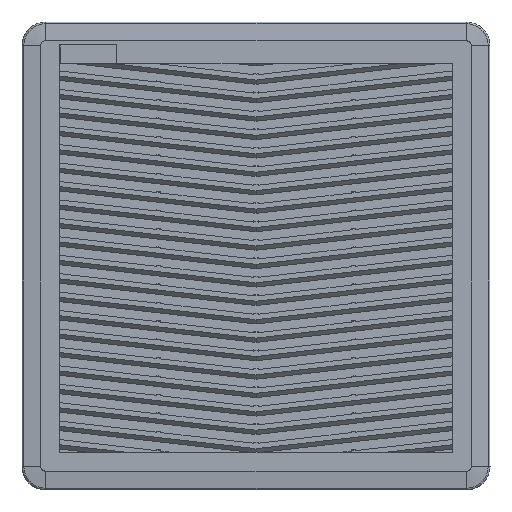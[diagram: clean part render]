
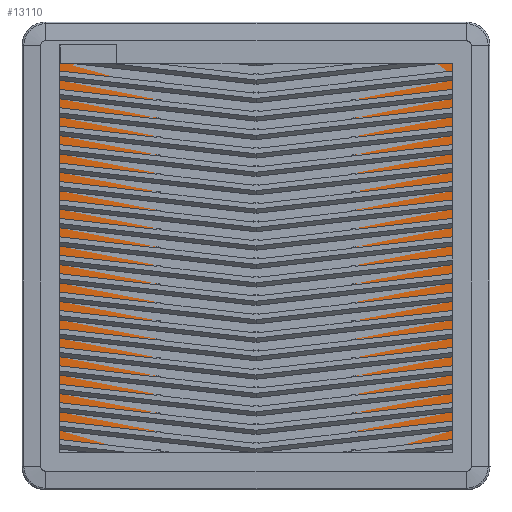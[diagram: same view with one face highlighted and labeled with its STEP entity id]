
A CAD part, top view. The second image highlights one B-rep face of the part: STEP entity #13110.
In plain terms, the highlighted planar face has unit normal (0, 0, 1).
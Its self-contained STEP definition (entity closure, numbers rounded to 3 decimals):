
#104 = CARTESIAN_POINT ( 'NONE',  ( 112.04, -112.04, 6.009 ) ) ;
#190 = VERTEX_POINT ( 'NONE', #4549 ) ;
#1856 = VECTOR ( 'NONE', #7229, 1000. ) ;
#2669 = FACE_OUTER_BOUND ( 'NONE', #18517, .T. ) ;
#3236 = DIRECTION ( 'NONE',  ( 0., 0., -1. ) ) ;
#4132 = CARTESIAN_POINT ( 'NONE',  ( -122.46, -112.04, 6.009 ) ) ;
#4284 = DIRECTION ( 'NONE',  ( 1., 0., 0. ) ) ;
#4323 = AXIS2_PLACEMENT_3D ( 'NONE', #104, #13462, #33496 ) ;
#4549 = CARTESIAN_POINT ( 'NONE',  ( 112.04, -122.54, 6.009 ) ) ;
#5356 = CARTESIAN_POINT ( 'NONE',  ( -111.96, 124.96, 6.009 ) ) ;
#5727 = ORIENTED_EDGE ( 'NONE', *, *, #16156, .F. ) ;
#7212 = VECTOR ( 'NONE', #38925, 1000. ) ;
#7229 = DIRECTION ( 'NONE',  ( 0., 1., 0. ) ) ;
#7437 = CARTESIAN_POINT ( 'NONE',  ( 112.04, 114.46, 6.009 ) ) ;
#7868 = ORIENTED_EDGE ( 'NONE', *, *, #19937, .F. ) ;
#8228 = LINE ( 'NONE', #28654, #7212 ) ;
#8946 = CARTESIAN_POINT ( 'NONE',  ( 112.04, -122.54, 6.009 ) ) ;
#10541 = LINE ( 'NONE', #24094, #1856 ) ;
#11771 = EDGE_CURVE ( 'NONE', #32879, #18724, #10541, .T. ) ;
#11933 = VERTEX_POINT ( 'NONE', #34301 ) ;
#12253 = PLANE ( 'NONE',  #25349 ) ;
#13110 = ADVANCED_FACE ( 'NONE', ( #2669 ), #12253, .T. ) ;
#13462 = DIRECTION ( 'NONE',  ( 0., 0., -1. ) ) ;
#14442 = CARTESIAN_POINT ( 'NONE',  ( -111.96, 114.46, 6.009 ) ) ;
#15229 = LINE ( 'NONE', #18780, #34152 ) ;
#15822 = DIRECTION ( 'NONE',  ( 0., 0., 1. ) ) ;
#16156 = EDGE_CURVE ( 'NONE', #25228, #24936, #15229, .T. ) ;
#16602 = CARTESIAN_POINT ( 'NONE',  ( -111.96, -112.04, 6.009 ) ) ;
#16879 = EDGE_CURVE ( 'NONE', #190, #11933, #42330, .T. ) ;
#17187 = EDGE_CURVE ( 'NONE', #27420, #38492, #8228, .T. ) ;
#17438 = EDGE_CURVE ( 'NONE', #38492, #190, #23509, .T. ) ;
#18304 = CARTESIAN_POINT ( 'NONE',  ( -122.46, 114.46, 6.009 ) ) ;
#18517 = EDGE_LOOP ( 'NONE', ( #7868, #33867, #34165, #25616, #35254, #41057, #29022, #5727 ) ) ;
#18724 = VERTEX_POINT ( 'NONE', #18304 ) ;
#18780 = CARTESIAN_POINT ( 'NONE',  ( -111.96, 124.96, 6.009 ) ) ;
#19937 = EDGE_CURVE ( 'NONE', #18724, #25228, #26584, .T. ) ;
#22086 = VECTOR ( 'NONE', #36294, 1000. ) ;
#23509 = CIRCLE ( 'NONE', #4323, 10.5 ) ;
#23691 = EDGE_CURVE ( 'NONE', #24936, #27420, #38846, .T. ) ;
#23739 = CARTESIAN_POINT ( 'NONE',  ( 122.54, -112.04, 6.009 ) ) ;
#24094 = CARTESIAN_POINT ( 'NONE',  ( -122.46, -112.04, 6.009 ) ) ;
#24872 = CIRCLE ( 'NONE', #43350, 10.5 ) ;
#24936 = VERTEX_POINT ( 'NONE', #39241 ) ;
#25228 = VERTEX_POINT ( 'NONE', #5356 ) ;
#25349 = AXIS2_PLACEMENT_3D ( 'NONE', #39202, #15822, #25809 ) ;
#25616 = ORIENTED_EDGE ( 'NONE', *, *, #16879, .F. ) ;
#25809 = DIRECTION ( 'NONE',  ( 1., 0., 0. ) ) ;
#26584 = CIRCLE ( 'NONE', #31509, 10.5 ) ;
#27420 = VERTEX_POINT ( 'NONE', #32606 ) ;
#27430 = AXIS2_PLACEMENT_3D ( 'NONE', #7437, #28078, #4284 ) ;
#28078 = DIRECTION ( 'NONE',  ( 0., 0., -1. ) ) ;
#28197 = DIRECTION ( 'NONE',  ( 0., 0., -1. ) ) ;
#28654 = CARTESIAN_POINT ( 'NONE',  ( 122.54, -112.04, 6.009 ) ) ;
#29022 = ORIENTED_EDGE ( 'NONE', *, *, #23691, .F. ) ;
#30519 = EDGE_CURVE ( 'NONE', #11933, #32879, #24872, .T. ) ;
#31509 = AXIS2_PLACEMENT_3D ( 'NONE', #14442, #28197, #41818 ) ;
#32606 = CARTESIAN_POINT ( 'NONE',  ( 122.54, 114.46, 6.009 ) ) ;
#32879 = VERTEX_POINT ( 'NONE', #4132 ) ;
#33496 = DIRECTION ( 'NONE',  ( 1., 0., 0. ) ) ;
#33867 = ORIENTED_EDGE ( 'NONE', *, *, #11771, .F. ) ;
#34152 = VECTOR ( 'NONE', #39488, 1000. ) ;
#34165 = ORIENTED_EDGE ( 'NONE', *, *, #30519, .F. ) ;
#34301 = CARTESIAN_POINT ( 'NONE',  ( -111.96, -122.54, 6.009 ) ) ;
#35254 = ORIENTED_EDGE ( 'NONE', *, *, #17438, .F. ) ;
#36294 = DIRECTION ( 'NONE',  ( -1., 0., 0. ) ) ;
#38492 = VERTEX_POINT ( 'NONE', #23739 ) ;
#38846 = CIRCLE ( 'NONE', #27430, 10.5 ) ;
#38925 = DIRECTION ( 'NONE',  ( 0., -1., 0. ) ) ;
#39202 = CARTESIAN_POINT ( 'NONE',  ( 0.04, -0.04, 6.009 ) ) ;
#39241 = CARTESIAN_POINT ( 'NONE',  ( 112.04, 124.96, 6.009 ) ) ;
#39488 = DIRECTION ( 'NONE',  ( 1., 0., 0. ) ) ;
#40853 = DIRECTION ( 'NONE',  ( 1., 0., 0. ) ) ;
#41057 = ORIENTED_EDGE ( 'NONE', *, *, #17187, .F. ) ;
#41818 = DIRECTION ( 'NONE',  ( 1., 0., 0. ) ) ;
#42330 = LINE ( 'NONE', #8946, #22086 ) ;
#43350 = AXIS2_PLACEMENT_3D ( 'NONE', #16602, #3236, #40853 ) ;
